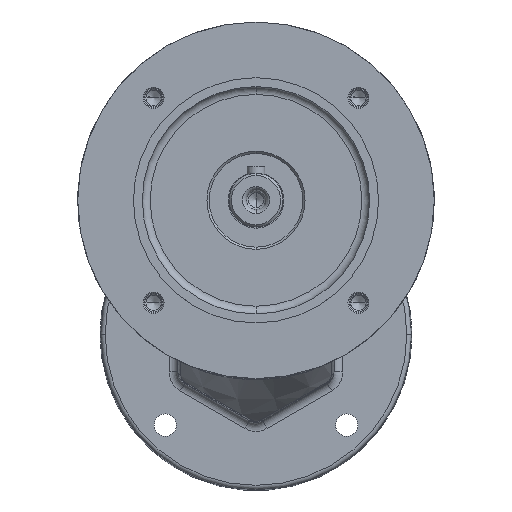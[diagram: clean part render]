
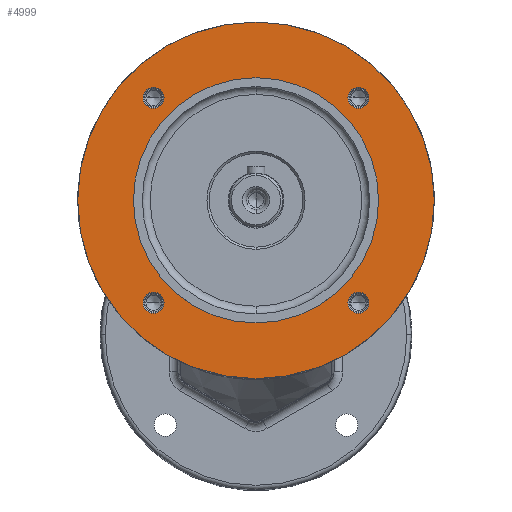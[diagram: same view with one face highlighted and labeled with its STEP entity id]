
A CAD part, top view. The second image highlights one B-rep face of the part: STEP entity #4999.
In plain terms, the highlighted planar face has unit normal (0, 0, 1).
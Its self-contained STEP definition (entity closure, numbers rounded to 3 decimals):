
#3440 = VERTEX_POINT ( 'NONE', #15854 ) ;
#3480 = EDGE_CURVE ( 'NONE', #3481, #3508, #15970, .T. ) ;
#3481 = VERTEX_POINT ( 'NONE', #15965 ) ;
#3492 = VERTEX_POINT ( 'NONE', #16006 ) ;
#3494 = EDGE_CURVE ( 'NONE', #3545, #3492, #16005, .T. ) ;
#3496 = EDGE_CURVE ( 'NONE', #3497, #3440, #16000, .T. ) ;
#3497 = VERTEX_POINT ( 'NONE', #15995 ) ;
#3508 = VERTEX_POINT ( 'NONE', #16038 ) ;
#3545 = VERTEX_POINT ( 'NONE', #16138 ) ;
#3556 = VERTEX_POINT ( 'NONE', #16114 ) ;
#3558 = EDGE_CURVE ( 'NONE', #3559, #3556, #16113, .T. ) ;
#3559 = VERTEX_POINT ( 'NONE', #16171 ) ;
#4117 = EDGE_CURVE ( 'NONE', #4118, #4119, #17401, .T. ) ;
#4118 = VERTEX_POINT ( 'NONE', #17396 ) ;
#4119 = VERTEX_POINT ( 'NONE', #17395 ) ;
#4138 = VERTEX_POINT ( 'NONE', #17422 ) ;
#4140 = EDGE_CURVE ( 'NONE', #4141, #4138, #17421, .T. ) ;
#4141 = VERTEX_POINT ( 'NONE', #17416 ) ;
#4999 = ADVANCED_FACE ( 'NONE', ( #22329, #22326, #22324, #22321, #22319, #22317 ), #22309, .T. ) ;
#5000 = EDGE_LOOP ( 'NONE', ( #5052, #5053 ) ) ;
#5038 = ORIENTED_EDGE ( 'NONE', *, *, #3496, .T. ) ;
#5039 = ORIENTED_EDGE ( 'NONE', *, *, #5040, .T. ) ;
#5040 = EDGE_CURVE ( 'NONE', #3440, #3497, #22703, .T. ) ;
#5041 = EDGE_LOOP ( 'NONE', ( #5042, #5043 ) ) ;
#5042 = ORIENTED_EDGE ( 'NONE', *, *, #4140, .T. ) ;
#5043 = ORIENTED_EDGE ( 'NONE', *, *, #5044, .T. ) ;
#5044 = EDGE_CURVE ( 'NONE', #4138, #4141, #22672, .T. ) ;
#5045 = EDGE_LOOP ( 'NONE', ( #5046, #5047 ) ) ;
#5046 = ORIENTED_EDGE ( 'NONE', *, *, #4117, .F. ) ;
#5047 = ORIENTED_EDGE ( 'NONE', *, *, #5071, .F. ) ;
#5052 = ORIENTED_EDGE ( 'NONE', *, *, #3558, .T. ) ;
#5053 = ORIENTED_EDGE ( 'NONE', *, *, #5054, .T. ) ;
#5054 = EDGE_CURVE ( 'NONE', #3556, #3559, #22861, .T. ) ;
#5055 = EDGE_LOOP ( 'NONE', ( #5056, #5057 ) ) ;
#5056 = ORIENTED_EDGE ( 'NONE', *, *, #3494, .T. ) ;
#5057 = ORIENTED_EDGE ( 'NONE', *, *, #5058, .T. ) ;
#5058 = EDGE_CURVE ( 'NONE', #3492, #3545, #22838, .T. ) ;
#5059 = EDGE_LOOP ( 'NONE', ( #5060, #5061 ) ) ;
#5060 = ORIENTED_EDGE ( 'NONE', *, *, #3480, .T. ) ;
#5061 = ORIENTED_EDGE ( 'NONE', *, *, #5062, .T. ) ;
#5062 = EDGE_CURVE ( 'NONE', #3508, #3481, #22823, .T. ) ;
#5063 = EDGE_LOOP ( 'NONE', ( #5038, #5039 ) ) ;
#5071 = EDGE_CURVE ( 'NONE', #4119, #4118, #22976, .T. ) ;
#15854 = CARTESIAN_POINT ( 'NONE',  ( -50.662, 45.962, 0. ) ) ;
#15965 = CARTESIAN_POINT ( 'NONE',  ( 50.662, 45.962, 0. ) ) ;
#15966 = DIRECTION ( 'NONE',  ( 0., -1., 0. ) ) ;
#15967 = DIRECTION ( 'NONE',  ( 0., 0., -1. ) ) ;
#15968 = CARTESIAN_POINT ( 'NONE',  ( 45.962, 45.962, 0. ) ) ;
#15969 = AXIS2_PLACEMENT_3D ( 'NONE', #15968, #15967, #15966 ) ;
#15970 = CIRCLE ( 'NONE', #15969, 4.7 ) ;
#15995 = CARTESIAN_POINT ( 'NONE',  ( -41.262, 45.962, 0. ) ) ;
#15996 = DIRECTION ( 'NONE',  ( 0., -1., 0. ) ) ;
#15997 = DIRECTION ( 'NONE',  ( 0., 0., -1. ) ) ;
#15998 = CARTESIAN_POINT ( 'NONE',  ( -45.962, 45.962, 0. ) ) ;
#15999 = AXIS2_PLACEMENT_3D ( 'NONE', #15998, #15997, #15996 ) ;
#16000 = CIRCLE ( 'NONE', #15999, 4.7 ) ;
#16001 = DIRECTION ( 'NONE',  ( 0., -1., 0. ) ) ;
#16002 = DIRECTION ( 'NONE',  ( 0., 0., -1. ) ) ;
#16003 = CARTESIAN_POINT ( 'NONE',  ( -45.962, -45.962, 0. ) ) ;
#16004 = AXIS2_PLACEMENT_3D ( 'NONE', #16003, #16002, #16001 ) ;
#16005 = CIRCLE ( 'NONE', #16004, 4.7 ) ;
#16006 = CARTESIAN_POINT ( 'NONE',  ( -50.662, -45.962, 0. ) ) ;
#16038 = CARTESIAN_POINT ( 'NONE',  ( 41.262, 45.962, 0. ) ) ;
#16109 = DIRECTION ( 'NONE',  ( 0., -1., 0. ) ) ;
#16110 = DIRECTION ( 'NONE',  ( 0., 0., -1. ) ) ;
#16111 = CARTESIAN_POINT ( 'NONE',  ( 45.962, -45.962, 0. ) ) ;
#16112 = AXIS2_PLACEMENT_3D ( 'NONE', #16111, #16110, #16109 ) ;
#16113 = CIRCLE ( 'NONE', #16112, 4.7 ) ;
#16114 = CARTESIAN_POINT ( 'NONE',  ( 41.262, -45.962, 0. ) ) ;
#16138 = CARTESIAN_POINT ( 'NONE',  ( -41.262, -45.962, 0. ) ) ;
#16171 = CARTESIAN_POINT ( 'NONE',  ( 50.662, -45.962, 0. ) ) ;
#17395 = CARTESIAN_POINT ( 'NONE',  ( 0., -80., 0. ) ) ;
#17396 = CARTESIAN_POINT ( 'NONE',  ( 0., 80., 0. ) ) ;
#17397 = DIRECTION ( 'NONE',  ( 0., 1., 0. ) ) ;
#17398 = DIRECTION ( 'NONE',  ( 0., 0., -1. ) ) ;
#17399 = CARTESIAN_POINT ( 'NONE',  ( 0., 0., 0. ) ) ;
#17400 = AXIS2_PLACEMENT_3D ( 'NONE', #17399, #17398, #17397 ) ;
#17401 = CIRCLE ( 'NONE', #17400, 80. ) ;
#17416 = CARTESIAN_POINT ( 'NONE',  ( 0., 55., 0. ) ) ;
#17417 = DIRECTION ( 'NONE',  ( 0., 1., 0. ) ) ;
#17418 = DIRECTION ( 'NONE',  ( 0., 0., -1. ) ) ;
#17419 = CARTESIAN_POINT ( 'NONE',  ( 0., 0., 0. ) ) ;
#17420 = AXIS2_PLACEMENT_3D ( 'NONE', #17419, #17418, #17417 ) ;
#17421 = CIRCLE ( 'NONE', #17420, 55. ) ;
#17422 = CARTESIAN_POINT ( 'NONE',  ( 0., -55., 0. ) ) ;
#22304 = CARTESIAN_POINT ( 'NONE',  ( 0., 55., 0. ) ) ;
#22306 = AXIS2_PLACEMENT_3D ( 'NONE', #22304, #22528, #22526 ) ;
#22309 = PLANE ( 'NONE',  #22306 ) ;
#22317 = FACE_OUTER_BOUND ( 'NONE', #5045, .T. ) ;
#22319 = FACE_BOUND ( 'NONE', #5041, .T. ) ;
#22321 = FACE_BOUND ( 'NONE', #5063, .T. ) ;
#22324 = FACE_BOUND ( 'NONE', #5059, .T. ) ;
#22326 = FACE_BOUND ( 'NONE', #5055, .T. ) ;
#22329 = FACE_BOUND ( 'NONE', #5000, .T. ) ;
#22526 = DIRECTION ( 'NONE',  ( 0., -1., 0. ) ) ;
#22528 = DIRECTION ( 'NONE',  ( 0., 0., 1. ) ) ;
#22662 = DIRECTION ( 'NONE',  ( 0., 1., 0. ) ) ;
#22665 = DIRECTION ( 'NONE',  ( 0., 0., -1. ) ) ;
#22668 = CARTESIAN_POINT ( 'NONE',  ( 0., 0., 0. ) ) ;
#22671 = AXIS2_PLACEMENT_3D ( 'NONE', #22668, #22665, #22662 ) ;
#22672 = CIRCLE ( 'NONE', #22671, 55. ) ;
#22682 = DIRECTION ( 'NONE',  ( 0., -1., 0. ) ) ;
#22685 = DIRECTION ( 'NONE',  ( 0., 0., -1. ) ) ;
#22687 = CARTESIAN_POINT ( 'NONE',  ( -45.962, 45.962, 0. ) ) ;
#22688 = AXIS2_PLACEMENT_3D ( 'NONE', #22687, #22685, #22682 ) ;
#22703 = CIRCLE ( 'NONE', #22688, 4.7 ) ;
#22814 = DIRECTION ( 'NONE',  ( 0., -1., 0. ) ) ;
#22816 = DIRECTION ( 'NONE',  ( 0., 0., -1. ) ) ;
#22819 = CARTESIAN_POINT ( 'NONE',  ( 45.962, 45.962, 0. ) ) ;
#22821 = AXIS2_PLACEMENT_3D ( 'NONE', #22819, #22816, #22814 ) ;
#22823 = CIRCLE ( 'NONE', #22821, 4.7 ) ;
#22830 = DIRECTION ( 'NONE',  ( 0., -1., 0. ) ) ;
#22832 = DIRECTION ( 'NONE',  ( 0., 0., -1. ) ) ;
#22833 = CARTESIAN_POINT ( 'NONE',  ( -45.962, -45.962, 0. ) ) ;
#22835 = AXIS2_PLACEMENT_3D ( 'NONE', #22833, #22832, #22830 ) ;
#22838 = CIRCLE ( 'NONE', #22835, 4.7 ) ;
#22846 = DIRECTION ( 'NONE',  ( 0., -1., 0. ) ) ;
#22848 = DIRECTION ( 'NONE',  ( 0., 0., -1. ) ) ;
#22850 = CARTESIAN_POINT ( 'NONE',  ( 45.962, -45.962, 0. ) ) ;
#22853 = AXIS2_PLACEMENT_3D ( 'NONE', #22850, #22848, #22846 ) ;
#22861 = CIRCLE ( 'NONE', #22853, 4.7 ) ;
#22970 = DIRECTION ( 'NONE',  ( 0., 1., 0. ) ) ;
#22971 = DIRECTION ( 'NONE',  ( 0., 0., -1. ) ) ;
#22973 = CARTESIAN_POINT ( 'NONE',  ( 0., 0., 0. ) ) ;
#22974 = AXIS2_PLACEMENT_3D ( 'NONE', #22973, #22971, #22970 ) ;
#22976 = CIRCLE ( 'NONE', #22974, 80. ) ;
